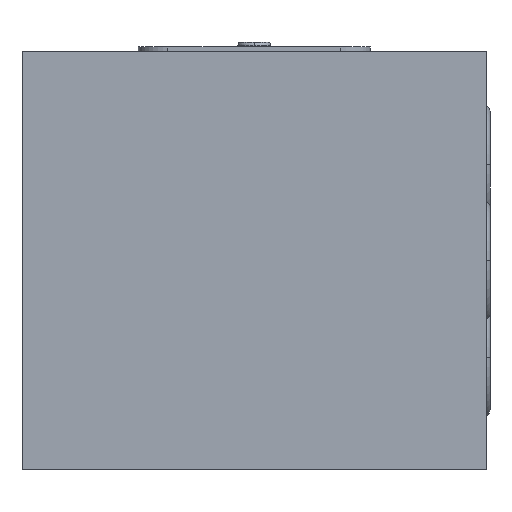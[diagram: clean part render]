
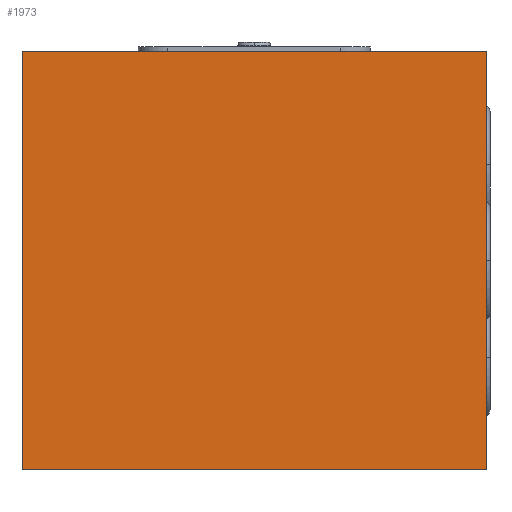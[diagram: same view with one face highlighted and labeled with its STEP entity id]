
A CAD part, left-side view. The second image highlights one B-rep face of the part: STEP entity #1973.
In plain terms, the highlighted planar face has unit normal (-1, 0, 0).
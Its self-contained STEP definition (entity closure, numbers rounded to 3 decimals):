
#53=DIRECTION('',(0.,0.,-1.));
#54=VECTOR('',#53,45.);
#55=CARTESIAN_POINT('',(0.,0.,0.));
#56=LINE('',#55,#54);
#60=DIRECTION('',(0.,1.,0.));
#61=VECTOR('',#60,50.);
#62=CARTESIAN_POINT('',(0.,0.,-45.));
#63=LINE('',#62,#61);
#67=DIRECTION('',(0.,0.,1.));
#68=VECTOR('',#67,45.);
#69=CARTESIAN_POINT('',(0.,50.,-45.));
#70=LINE('',#69,#68);
#74=DIRECTION('',(0.,-1.,0.));
#75=VECTOR('',#74,50.);
#76=CARTESIAN_POINT('',(0.,50.,0.));
#77=LINE('',#76,#75);
#1752=CARTESIAN_POINT('',(0.,0.,0.));
#1753=CARTESIAN_POINT('',(0.,0.,-45.));
#1754=VERTEX_POINT('',#1752);
#1755=VERTEX_POINT('',#1753);
#1756=CARTESIAN_POINT('',(0.,50.,-45.));
#1757=VERTEX_POINT('',#1756);
#1758=CARTESIAN_POINT('',(0.,50.,0.));
#1759=VERTEX_POINT('',#1758);
#1958=CARTESIAN_POINT('',(0.,0.,0.));
#1959=DIRECTION('',(1.,0.,0.));
#1960=DIRECTION('',(0.,0.,-1.));
#1961=AXIS2_PLACEMENT_3D('',#1958,#1959,#1960);
#1962=PLANE('',#1961);
#1964=ORIENTED_EDGE('',*,*,#1963,.T.);
#1966=ORIENTED_EDGE('',*,*,#1965,.T.);
#1968=ORIENTED_EDGE('',*,*,#1967,.T.);
#1970=ORIENTED_EDGE('',*,*,#1969,.T.);
#1971=EDGE_LOOP('',(#1964,#1966,#1968,#1970));
#1972=FACE_OUTER_BOUND('',#1971,.F.);
#1963=EDGE_CURVE('',#1754,#1755,#56,.T.);
#1965=EDGE_CURVE('',#1755,#1757,#63,.T.);
#1967=EDGE_CURVE('',#1757,#1759,#70,.T.);
#1969=EDGE_CURVE('',#1759,#1754,#77,.T.);
#1973=ADVANCED_FACE('',(#1972),#1962,.F.);
